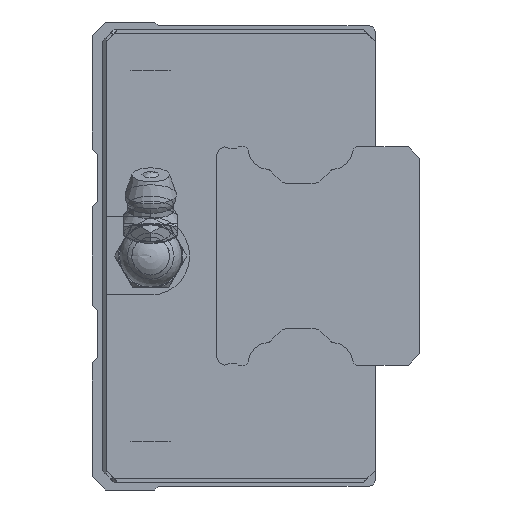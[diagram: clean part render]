
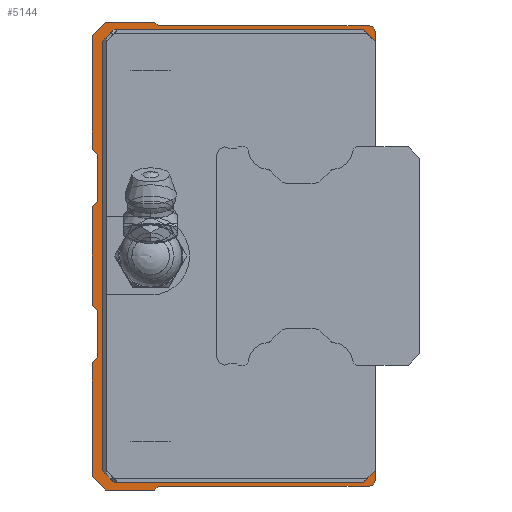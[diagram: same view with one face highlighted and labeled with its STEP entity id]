
A CAD part, left-side view. The second image highlights one B-rep face of the part: STEP entity #5144.
In plain terms, the highlighted planar face has unit normal (-1, 0, 0).
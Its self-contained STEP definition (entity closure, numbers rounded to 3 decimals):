
#107=LINE('',#8011,#469);
#116=LINE('',#8030,#478);
#123=LINE('',#8043,#485);
#149=LINE('',#8099,#511);
#157=LINE('',#8115,#519);
#163=LINE('',#8127,#525);
#188=LINE('',#8178,#550);
#193=LINE('',#8187,#555);
#195=LINE('',#8191,#557);
#220=LINE('',#8282,#582);
#224=LINE('',#8291,#586);
#227=LINE('',#8297,#589);
#231=LINE('',#8309,#593);
#235=LINE('',#8324,#597);
#239=LINE('',#8336,#601);
#242=LINE('',#8342,#604);
#245=LINE('',#8348,#607);
#248=LINE('',#8356,#610);
#251=LINE('',#8362,#613);
#255=LINE('',#8374,#617);
#259=LINE('',#8386,#621);
#262=LINE('',#8394,#624);
#265=LINE('',#8400,#627);
#269=LINE('',#8412,#631);
#273=LINE('',#8424,#635);
#276=LINE('',#8432,#638);
#469=VECTOR('',#6267,1000.);
#478=VECTOR('',#6282,1000.);
#485=VECTOR('',#6293,1000.);
#511=VECTOR('',#6333,1000.);
#519=VECTOR('',#6345,1000.);
#525=VECTOR('',#6357,1000.);
#550=VECTOR('',#6398,1000.);
#555=VECTOR('',#6405,1000.);
#557=VECTOR('',#6409,1000.);
#582=VECTOR('',#6482,1000.);
#586=VECTOR('',#6488,1000.);
#589=VECTOR('',#6493,1000.);
#593=VECTOR('',#6505,1000.);
#597=VECTOR('',#6523,1000.);
#601=VECTOR('',#6535,1000.);
#604=VECTOR('',#6540,1000.);
#607=VECTOR('',#6545,1000.);
#610=VECTOR('',#6552,1000.);
#613=VECTOR('',#6557,1000.);
#617=VECTOR('',#6569,1000.);
#621=VECTOR('',#6581,1000.);
#624=VECTOR('',#6588,1000.);
#627=VECTOR('',#6593,1000.);
#631=VECTOR('',#6605,1000.);
#635=VECTOR('',#6617,1000.);
#638=VECTOR('',#6624,1000.);
#833=PLANE('',#5592);
#1136=CIRCLE('',#5551,0.5);
#1138=CIRCLE('',#5555,0.8);
#1140=CIRCLE('',#5558,0.8);
#1142=CIRCLE('',#5562,0.5);
#1145=CIRCLE('',#5571,0.5);
#1147=CIRCLE('',#5575,0.5);
#1150=CIRCLE('',#5582,0.5);
#1152=CIRCLE('',#5586,0.5);
#1883=ORIENTED_EDGE('',*,*,#2858,.T.);
#1884=ORIENTED_EDGE('',*,*,#2865,.T.);
#1885=ORIENTED_EDGE('',*,*,#2938,.F.);
#1886=ORIENTED_EDGE('',*,*,#3002,.F.);
#1887=ORIENTED_EDGE('',*,*,#2999,.F.);
#1888=ORIENTED_EDGE('',*,*,#2996,.T.);
#1889=ORIENTED_EDGE('',*,*,#2993,.F.);
#1890=ORIENTED_EDGE('',*,*,#2990,.F.);
#1891=ORIENTED_EDGE('',*,*,#2986,.F.);
#1892=ORIENTED_EDGE('',*,*,#3061,.F.);
#1893=ORIENTED_EDGE('',*,*,#3057,.F.);
#1894=ORIENTED_EDGE('',*,*,#3054,.T.);
#1895=ORIENTED_EDGE('',*,*,#3051,.F.);
#1896=ORIENTED_EDGE('',*,*,#3048,.T.);
#1897=ORIENTED_EDGE('',*,*,#3045,.F.);
#1898=ORIENTED_EDGE('',*,*,#3042,.F.);
#1899=ORIENTED_EDGE('',*,*,#3038,.F.);
#1900=ORIENTED_EDGE('',*,*,#3035,.T.);
#1901=ORIENTED_EDGE('',*,*,#3032,.F.);
#1902=ORIENTED_EDGE('',*,*,#3029,.T.);
#1903=ORIENTED_EDGE('',*,*,#3026,.F.);
#1904=ORIENTED_EDGE('',*,*,#3023,.F.);
#1905=ORIENTED_EDGE('',*,*,#3019,.F.);
#1906=ORIENTED_EDGE('',*,*,#3016,.F.);
#1907=ORIENTED_EDGE('',*,*,#3013,.F.);
#1908=ORIENTED_EDGE('',*,*,#3010,.T.);
#1909=ORIENTED_EDGE('',*,*,#3007,.F.);
#1910=ORIENTED_EDGE('',*,*,#3004,.F.);
#1911=ORIENTED_EDGE('',*,*,#2940,.F.);
#1912=ORIENTED_EDGE('',*,*,#2900,.T.);
#1913=ORIENTED_EDGE('',*,*,#2907,.T.);
#1914=ORIENTED_EDGE('',*,*,#2892,.T.);
#1915=ORIENTED_EDGE('',*,*,#2933,.T.);
#1916=ORIENTED_EDGE('',*,*,#2848,.T.);
#2848=EDGE_CURVE('',#3500,#3499,#107,.T.);
#2858=EDGE_CURVE('',#3499,#3506,#116,.T.);
#2865=EDGE_CURVE('',#3506,#3510,#123,.T.);
#2892=EDGE_CURVE('',#3534,#3533,#149,.T.);
#2900=EDGE_CURVE('',#3540,#3539,#157,.T.);
#2907=EDGE_CURVE('',#3539,#3534,#163,.T.);
#2933=EDGE_CURVE('',#3533,#3500,#188,.T.);
#2938=EDGE_CURVE('',#3563,#3510,#193,.T.);
#2940=EDGE_CURVE('',#3540,#3565,#195,.T.);
#2986=EDGE_CURVE('',#3607,#3608,#220,.T.);
#2990=EDGE_CURVE('',#3608,#3611,#224,.T.);
#2993=EDGE_CURVE('',#3611,#3613,#227,.T.);
#2996=EDGE_CURVE('',#3615,#3613,#1136,.T.);
#2999=EDGE_CURVE('',#3615,#3617,#231,.T.);
#3002=EDGE_CURVE('',#3617,#3563,#1138,.T.);
#3004=EDGE_CURVE('',#3565,#3619,#1140,.T.);
#3007=EDGE_CURVE('',#3619,#3621,#235,.T.);
#3010=EDGE_CURVE('',#3623,#3621,#1142,.T.);
#3013=EDGE_CURVE('',#3623,#3625,#239,.T.);
#3016=EDGE_CURVE('',#3625,#3627,#242,.T.);
#3019=EDGE_CURVE('',#3627,#3629,#245,.T.);
#3023=EDGE_CURVE('',#3629,#3632,#248,.T.);
#3026=EDGE_CURVE('',#3632,#3634,#251,.T.);
#3029=EDGE_CURVE('',#3636,#3634,#1145,.T.);
#3032=EDGE_CURVE('',#3636,#3638,#255,.T.);
#3035=EDGE_CURVE('',#3640,#3638,#1147,.T.);
#3038=EDGE_CURVE('',#3640,#3642,#259,.T.);
#3042=EDGE_CURVE('',#3642,#3645,#262,.T.);
#3045=EDGE_CURVE('',#3645,#3647,#265,.T.);
#3048=EDGE_CURVE('',#3649,#3647,#1150,.T.);
#3051=EDGE_CURVE('',#3649,#3651,#269,.T.);
#3054=EDGE_CURVE('',#3653,#3651,#1152,.T.);
#3057=EDGE_CURVE('',#3653,#3655,#273,.T.);
#3061=EDGE_CURVE('',#3655,#3607,#276,.T.);
#3499=VERTEX_POINT('',#8010);
#3500=VERTEX_POINT('',#8012);
#3506=VERTEX_POINT('',#8029);
#3510=VERTEX_POINT('',#8042);
#3533=VERTEX_POINT('',#8098);
#3534=VERTEX_POINT('',#8100);
#3539=VERTEX_POINT('',#8114);
#3540=VERTEX_POINT('',#8116);
#3563=VERTEX_POINT('',#8186);
#3565=VERTEX_POINT('',#8192);
#3607=VERTEX_POINT('',#8283);
#3608=VERTEX_POINT('',#8284);
#3611=VERTEX_POINT('',#8292);
#3613=VERTEX_POINT('',#8298);
#3615=VERTEX_POINT('',#8304);
#3617=VERTEX_POINT('',#8310);
#3619=VERTEX_POINT('',#8319);
#3621=VERTEX_POINT('',#8325);
#3623=VERTEX_POINT('',#8331);
#3625=VERTEX_POINT('',#8337);
#3627=VERTEX_POINT('',#8343);
#3629=VERTEX_POINT('',#8349);
#3632=VERTEX_POINT('',#8357);
#3634=VERTEX_POINT('',#8363);
#3636=VERTEX_POINT('',#8369);
#3638=VERTEX_POINT('',#8375);
#3640=VERTEX_POINT('',#8381);
#3642=VERTEX_POINT('',#8387);
#3645=VERTEX_POINT('',#8395);
#3647=VERTEX_POINT('',#8401);
#3649=VERTEX_POINT('',#8407);
#3651=VERTEX_POINT('',#8413);
#3653=VERTEX_POINT('',#8419);
#3655=VERTEX_POINT('',#8425);
#4042=EDGE_LOOP('',(#1883,#1884,#1885,#1886,#1887,#1888,#1889,#1890,#1891,
#1892,#1893,#1894,#1895,#1896,#1897,#1898,#1899,#1900,#1901,#1902,#1903,
#1904,#1905,#1906,#1907,#1908,#1909,#1910,#1911,#1912,#1913,#1914,#1915,
#1916));
#4591=FACE_BOUND('',#4042,.T.);
#5144=ADVANCED_FACE('',(#4591),#833,.F.);
#5551=AXIS2_PLACEMENT_3D('',#8303,#6498,#6499);
#5555=AXIS2_PLACEMENT_3D('',#8315,#6510,#6511);
#5558=AXIS2_PLACEMENT_3D('',#8318,#6516,#6517);
#5562=AXIS2_PLACEMENT_3D('',#8330,#6528,#6529);
#5571=AXIS2_PLACEMENT_3D('',#8368,#6562,#6563);
#5575=AXIS2_PLACEMENT_3D('',#8380,#6574,#6575);
#5582=AXIS2_PLACEMENT_3D('',#8406,#6598,#6599);
#5586=AXIS2_PLACEMENT_3D('',#8418,#6610,#6611);
#5592=AXIS2_PLACEMENT_3D('',#8435,#6628,#6629);
#6267=DIRECTION('',(0.,-0.707,0.707));
#6282=DIRECTION('',(0.,-1.,0.));
#6293=DIRECTION('',(0.,-0.707,-0.707));
#6333=DIRECTION('',(0.,0.707,0.707));
#6345=DIRECTION('',(0.,0.707,-0.707));
#6357=DIRECTION('',(0.,1.,0.));
#6398=DIRECTION('',(0.,0.,1.));
#6405=DIRECTION('',(0.,0.,-1.));
#6409=DIRECTION('',(0.,0.,-1.));
#6482=DIRECTION('',(0.,-0.707,0.707));
#6488=DIRECTION('',(0.,-1.,0.));
#6493=DIRECTION('',(0.,-0.707,-0.707));
#6498=DIRECTION('',(1.,0.,0.));
#6499=DIRECTION('',(0.,0.,-1.));
#6505=DIRECTION('',(0.,-1.,0.));
#6510=DIRECTION('',(1.,0.,0.));
#6511=DIRECTION('',(0.,0.,-1.));
#6516=DIRECTION('',(1.,0.,0.));
#6517=DIRECTION('',(0.,0.,-1.));
#6523=DIRECTION('',(0.,1.,0.));
#6528=DIRECTION('',(1.,0.,0.));
#6529=DIRECTION('',(0.,0.,-1.));
#6535=DIRECTION('',(0.,0.707,-0.707));
#6540=DIRECTION('',(0.,1.,0.));
#6545=DIRECTION('',(0.,0.707,0.707));
#6552=DIRECTION('',(0.,0.,1.));
#6557=DIRECTION('',(0.,-0.707,0.707));
#6562=DIRECTION('',(1.,0.,0.));
#6563=DIRECTION('',(0.,0.,-1.));
#6569=DIRECTION('',(0.,0.,1.));
#6574=DIRECTION('',(1.,0.,0.));
#6575=DIRECTION('',(0.,0.,-1.));
#6581=DIRECTION('',(0.,0.707,0.707));
#6588=DIRECTION('',(0.,0.,1.));
#6593=DIRECTION('',(0.,-0.707,0.707));
#6598=DIRECTION('',(1.,0.,0.));
#6599=DIRECTION('',(0.,0.,-1.));
#6605=DIRECTION('',(0.,0.,1.));
#6610=DIRECTION('',(1.,0.,0.));
#6611=DIRECTION('',(0.,0.,-1.));
#6617=DIRECTION('',(0.,0.707,0.707));
#6624=DIRECTION('',(0.,0.,1.));
#6628=DIRECTION('',(1.,0.,0.));
#6629=DIRECTION('',(0.,0.,-1.));
#8010=CARTESIAN_POINT('',(-20.95,33.5,29.));
#8011=CARTESIAN_POINT('',(-20.95,35.,27.5));
#8012=CARTESIAN_POINT('',(-20.95,35.,27.5));
#8029=CARTESIAN_POINT('',(-20.95,1.5,29.));
#8030=CARTESIAN_POINT('',(-20.95,33.5,29.));
#8042=CARTESIAN_POINT('',(-20.95,0.,27.5));
#8043=CARTESIAN_POINT('',(-20.95,1.5,29.));
#8098=CARTESIAN_POINT('',(-20.95,35.,-27.5));
#8099=CARTESIAN_POINT('',(-20.95,33.5,-29.));
#8100=CARTESIAN_POINT('',(-20.95,33.5,-29.));
#8114=CARTESIAN_POINT('',(-20.95,1.5,-29.));
#8115=CARTESIAN_POINT('',(-20.95,0.,-27.5));
#8116=CARTESIAN_POINT('',(-20.95,0.,-27.5));
#8127=CARTESIAN_POINT('',(-20.95,1.5,-29.));
#8178=CARTESIAN_POINT('',(-20.95,35.,-27.5));
#8186=CARTESIAN_POINT('',(-20.95,0.,28.7));
#8187=CARTESIAN_POINT('',(-20.95,0.,28.7));
#8191=CARTESIAN_POINT('',(-20.95,0.,28.7));
#8192=CARTESIAN_POINT('',(-20.95,0.,-28.7));
#8282=CARTESIAN_POINT('',(-20.95,36.3,28.3));
#8283=CARTESIAN_POINT('',(-20.95,36.3,28.3));
#8284=CARTESIAN_POINT('',(-20.95,34.6,30.));
#8291=CARTESIAN_POINT('',(-20.95,34.6,30.));
#8292=CARTESIAN_POINT('',(-20.95,28.3,30.));
#8297=CARTESIAN_POINT('',(-20.95,28.3,30.));
#8298=CARTESIAN_POINT('',(-20.95,27.946,29.646));
#8303=CARTESIAN_POINT('',(-20.95,27.593,30.));
#8304=CARTESIAN_POINT('',(-20.95,27.593,29.5));
#8309=CARTESIAN_POINT('',(-20.95,27.593,29.5));
#8310=CARTESIAN_POINT('',(-20.95,0.8,29.5));
#8315=CARTESIAN_POINT('',(-20.95,0.8,28.7));
#8318=CARTESIAN_POINT('',(-20.95,0.8,-28.7));
#8319=CARTESIAN_POINT('',(-20.95,0.8,-29.5));
#8324=CARTESIAN_POINT('',(-20.95,0.8,-29.5));
#8325=CARTESIAN_POINT('',(-20.95,27.593,-29.5));
#8330=CARTESIAN_POINT('',(-20.95,27.593,-30.));
#8331=CARTESIAN_POINT('',(-20.95,27.946,-29.646));
#8336=CARTESIAN_POINT('',(-20.95,27.946,-29.646));
#8337=CARTESIAN_POINT('',(-20.95,28.3,-30.));
#8342=CARTESIAN_POINT('',(-20.95,28.3,-30.));
#8343=CARTESIAN_POINT('',(-20.95,34.6,-30.));
#8348=CARTESIAN_POINT('',(-20.95,34.6,-30.));
#8349=CARTESIAN_POINT('',(-20.95,36.3,-28.3));
#8356=CARTESIAN_POINT('',(-20.95,36.3,-28.3));
#8357=CARTESIAN_POINT('',(-20.95,36.3,-13.7));
#8362=CARTESIAN_POINT('',(-20.95,36.3,-13.7));
#8363=CARTESIAN_POINT('',(-20.95,35.746,-13.146));
#8368=CARTESIAN_POINT('',(-20.95,36.1,-12.793));
#8369=CARTESIAN_POINT('',(-20.95,35.6,-12.793));
#8374=CARTESIAN_POINT('',(-20.95,35.6,-12.793));
#8375=CARTESIAN_POINT('',(-20.95,35.6,-7.207));
#8380=CARTESIAN_POINT('',(-20.95,36.1,-7.207));
#8381=CARTESIAN_POINT('',(-20.95,35.746,-6.854));
#8386=CARTESIAN_POINT('',(-20.95,35.746,-6.854));
#8387=CARTESIAN_POINT('',(-20.95,36.3,-6.3));
#8394=CARTESIAN_POINT('',(-20.95,36.3,-6.3));
#8395=CARTESIAN_POINT('',(-20.95,36.3,6.3));
#8400=CARTESIAN_POINT('',(-20.95,36.3,6.3));
#8401=CARTESIAN_POINT('',(-20.95,35.746,6.854));
#8406=CARTESIAN_POINT('',(-20.95,36.1,7.207));
#8407=CARTESIAN_POINT('',(-20.95,35.6,7.207));
#8412=CARTESIAN_POINT('',(-20.95,35.6,7.207));
#8413=CARTESIAN_POINT('',(-20.95,35.6,12.793));
#8418=CARTESIAN_POINT('',(-20.95,36.1,12.793));
#8419=CARTESIAN_POINT('',(-20.95,35.746,13.146));
#8424=CARTESIAN_POINT('',(-20.95,35.746,13.146));
#8425=CARTESIAN_POINT('',(-20.95,36.3,13.7));
#8432=CARTESIAN_POINT('',(-20.95,36.3,13.7));
#8435=CARTESIAN_POINT('',(-20.95,27.593,30.));
